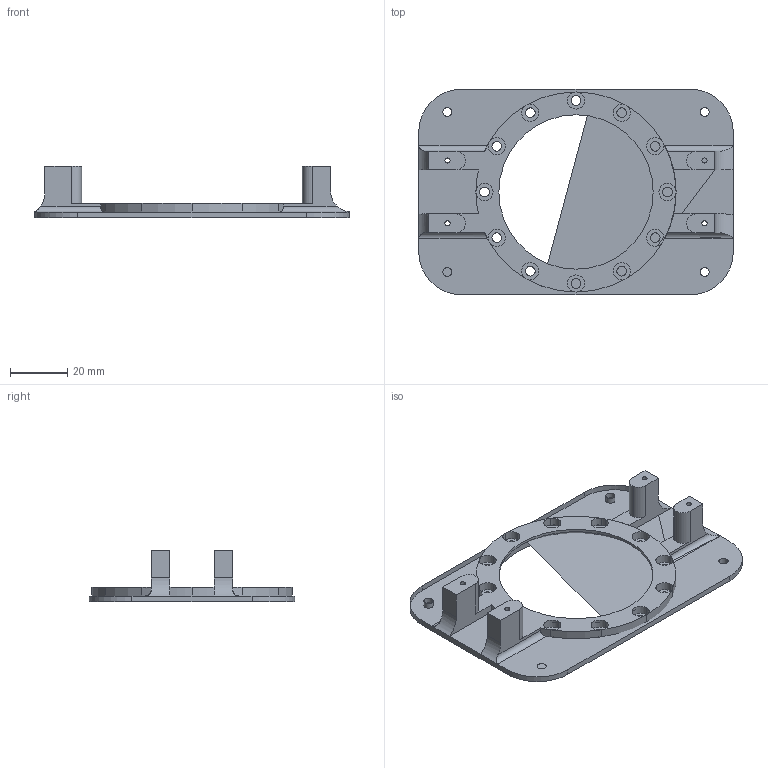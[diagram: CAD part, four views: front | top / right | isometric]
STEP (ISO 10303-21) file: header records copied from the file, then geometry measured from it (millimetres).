
FILE_DESCRIPTION(/* description */ (''),/* implementation_level */ '2;1');
FILE_NAME(/* name */ 'Acuator Host-Join-2.step',/* time_stamp */ '2026-09-18T19:38:29+10:00',/* author */ (''),/* organization */ (''),/* preprocessor_version */ 'ST-DEVELOPER v20.2',/* originating_system */ 'Autodesk Translation Framework v15.15.0.0',/* authorisation */ '');
FILE_SCHEMA (('AUTOMOTIVE_DESIGN { 1 0 10303 214 3 1 1 }'));
Length unit declared in the file: millimetre
Products named in the file (1): Acuator Host-Join
Bounding box: 110 x 72 x 18 mm (x, y, z)
Volume: 17951.7 mm3; surface area: 16360.1 mm2
Topology: 1 solids, 1 shells, 120 faces, 331 edges, 200 vertices
Faces by surface type: cylinder 81, plane 39
Full cylindrical faces by diameter (mm): 1.8 x4, 3.2 x4, 3.4 x12, 6 x1, 54 x1, 58 x1
Entity records: 4191 total; most frequent: DIRECTION 763, CARTESIAN_POINT 758, ORIENTED_EDGE 706, EDGE_CURVE 353, AXIS2_PLACEMENT_3D 297, VERTEX_POINT 200, CIRCLE 176, LINE 169
